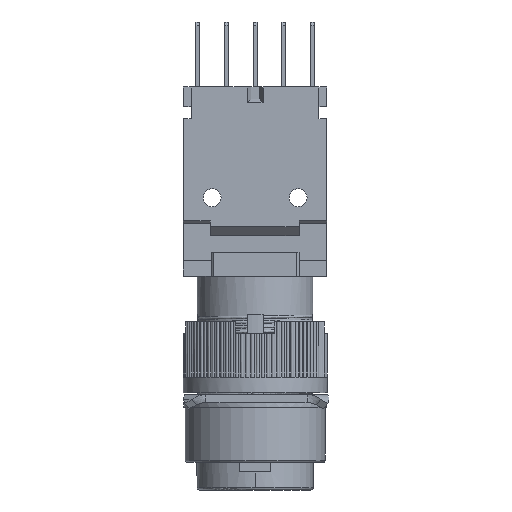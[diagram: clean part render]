
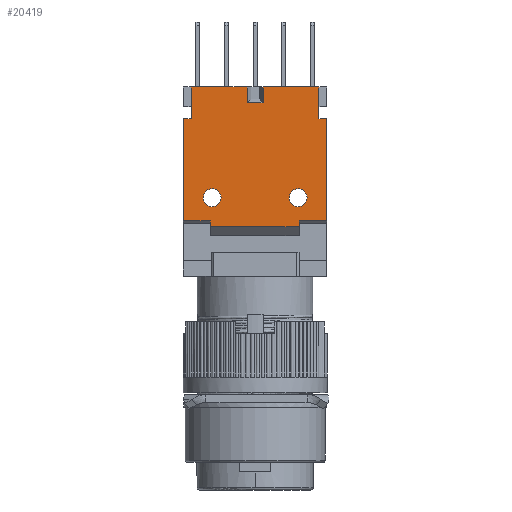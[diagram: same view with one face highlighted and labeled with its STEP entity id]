
A CAD part, front view. The second image highlights one B-rep face of the part: STEP entity #20419.
In plain terms, the highlighted planar face has unit normal (0, -1, 0).
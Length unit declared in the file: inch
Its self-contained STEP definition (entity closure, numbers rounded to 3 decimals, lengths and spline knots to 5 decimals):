
#240=DIRECTION('',(0.,0.,1.));
#241=VECTOR('',#240,4.);
#242=CARTESIAN_POINT('',(17.1,0.,-12.2));
#243=LINE('',#242,#241);
#324=DIRECTION('',(-1.,0.,0.));
#325=VECTOR('',#324,1.);
#326=CARTESIAN_POINT('',(18.1,0.,-12.2));
#327=LINE('',#326,#325);
#340=DIRECTION('',(1.,0.,0.));
#341=VECTOR('',#340,7.05);
#342=CARTESIAN_POINT('',(10.05,0.,-8.2));
#343=LINE('',#342,#341);
#344=DIRECTION('',(0.,0.,-1.));
#345=VECTOR('',#344,12.9);
#346=CARTESIAN_POINT('',(18.1,0.,-12.2));
#347=LINE('',#346,#345);
#348=DIRECTION('',(0.,0.,-1.));
#349=VECTOR('',#348,0.75);
#350=CARTESIAN_POINT('',(14.6,0.,-25.1));
#351=LINE('',#350,#349);
#352=DIRECTION('',(0.,0.,1.));
#353=VECTOR('',#352,12.9);
#354=CARTESIAN_POINT('',(0.,0.,-25.1));
#355=LINE('',#354,#353);
#356=DIRECTION('',(0.,0.,1.));
#357=VECTOR('',#356,4.);
#358=CARTESIAN_POINT('',(1.,0.,-12.2));
#359=LINE('',#358,#357);
#360=DIRECTION('',(1.,0.,0.));
#361=VECTOR('',#360,7.05);
#362=CARTESIAN_POINT('',(1.,0.,-8.2));
#363=LINE('',#362,#361);
#364=CARTESIAN_POINT('',(14.475,0.,-22.165));
#365=DIRECTION('',(0.,-1.,0.));
#366=DIRECTION('',(-1.,0.,0.));
#367=AXIS2_PLACEMENT_3D('',#364,#365,#366);
#369=CARTESIAN_POINT('',(14.475,0.,-22.165));
#370=DIRECTION('',(0.,-1.,0.));
#371=DIRECTION('',(1.,0.,0.));
#372=AXIS2_PLACEMENT_3D('',#369,#370,#371);
#374=CARTESIAN_POINT('',(3.625,0.,-22.165));
#375=DIRECTION('',(0.,-1.,0.));
#376=DIRECTION('',(-1.,0.,0.));
#377=AXIS2_PLACEMENT_3D('',#374,#375,#376);
#379=CARTESIAN_POINT('',(3.625,0.,-22.165));
#380=DIRECTION('',(0.,-1.,0.));
#381=DIRECTION('',(1.,0.,0.));
#382=AXIS2_PLACEMENT_3D('',#379,#380,#381);
#384=DIRECTION('',(0.,0.,-1.));
#385=VECTOR('',#384,2.);
#386=CARTESIAN_POINT('',(10.05,0.,-8.2));
#387=LINE('',#386,#385);
#388=DIRECTION('',(-1.,0.,0.));
#389=VECTOR('',#388,2.);
#390=CARTESIAN_POINT('',(10.05,0.,-10.2));
#391=LINE('',#390,#389);
#400=DIRECTION('',(0.,0.,1.));
#401=VECTOR('',#400,2.);
#402=CARTESIAN_POINT('',(8.05,0.,-10.2));
#403=LINE('',#402,#401);
#424=DIRECTION('',(1.,0.,0.));
#425=VECTOR('',#424,3.5);
#426=CARTESIAN_POINT('',(14.6,0.,-25.1));
#427=LINE('',#426,#425);
#15305=DIRECTION('',(1.,0.,0.));
#15306=VECTOR('',#15305,3.4);
#15307=CARTESIAN_POINT('',(0.,0.,-25.1));
#15308=LINE('',#15307,#15306);
#15317=DIRECTION('',(0.,0.,-1.));
#15318=VECTOR('',#15317,0.75);
#15319=CARTESIAN_POINT('',(3.4,0.,-25.1));
#15320=LINE('',#15319,#15318);
#15325=DIRECTION('',(1.,0.,0.));
#15326=VECTOR('',#15325,11.2);
#15327=CARTESIAN_POINT('',(3.4,0.,-25.85));
#15328=LINE('',#15327,#15326);
#15373=DIRECTION('',(-1.,0.,0.));
#15374=VECTOR('',#15373,1.);
#15375=CARTESIAN_POINT('',(1.,0.,-12.2));
#15376=LINE('',#15375,#15374);
#16989=CARTESIAN_POINT('',(18.1,0.,-25.1));
#16990=VERTEX_POINT('',#16989);
#16991=CARTESIAN_POINT('',(18.1,0.,-12.2));
#16992=VERTEX_POINT('',#16991);
#17031=CARTESIAN_POINT('',(17.1,0.,-8.2));
#17032=VERTEX_POINT('',#17031);
#17033=CARTESIAN_POINT('',(10.05,0.,-8.2));
#17034=VERTEX_POINT('',#17033);
#17039=CARTESIAN_POINT('',(8.05,0.,-8.2));
#17040=VERTEX_POINT('',#17039);
#17041=CARTESIAN_POINT('',(1.,0.,-8.2));
#17042=VERTEX_POINT('',#17041);
#17703=CARTESIAN_POINT('',(14.6,0.,-25.1));
#17704=CARTESIAN_POINT('',(14.6,0.,-25.85));
#17705=VERTEX_POINT('',#17703);
#17706=VERTEX_POINT('',#17704);
#17811=CARTESIAN_POINT('',(0.,0.,-12.2));
#17812=VERTEX_POINT('',#17811);
#17813=CARTESIAN_POINT('',(0.,0.,-25.1));
#17815=VERTEX_POINT('',#17813);
#17840=CARTESIAN_POINT('',(1.,0.,-12.2));
#17842=VERTEX_POINT('',#17840);
#17861=CARTESIAN_POINT('',(13.35,0.,-22.165));
#17862=CARTESIAN_POINT('',(15.6,0.,-22.165));
#17863=VERTEX_POINT('',#17861);
#17864=VERTEX_POINT('',#17862);
#17865=CARTESIAN_POINT('',(2.5,0.,-22.165));
#17866=CARTESIAN_POINT('',(4.75,0.,-22.165));
#17867=VERTEX_POINT('',#17865);
#17868=VERTEX_POINT('',#17866);
#17869=CARTESIAN_POINT('',(10.05,0.,-10.2));
#17870=VERTEX_POINT('',#17869);
#17871=CARTESIAN_POINT('',(17.1,0.,-12.2));
#17872=VERTEX_POINT('',#17871);
#17873=CARTESIAN_POINT('',(3.4,0.,-25.85));
#17874=VERTEX_POINT('',#17873);
#17875=CARTESIAN_POINT('',(3.4,0.,-25.1));
#17876=VERTEX_POINT('',#17875);
#17877=CARTESIAN_POINT('',(8.05,0.,-10.2));
#17878=VERTEX_POINT('',#17877);
#20374=CARTESIAN_POINT('',(9.05,0.,-17.025));
#20375=DIRECTION('',(0.,1.,0.));
#20376=DIRECTION('',(1.,0.,0.));
#20377=AXIS2_PLACEMENT_3D('',#20374,#20375,#20376);
#20378=PLANE('',#20377);
#20380=ORIENTED_EDGE('',*,*,#20379,.F.);
#20381=ORIENTED_EDGE('',*,*,#20066,.T.);
#20382=ORIENTED_EDGE('',*,*,#20231,.F.);
#20383=ORIENTED_EDGE('',*,*,#20366,.F.);
#20384=ORIENTED_EDGE('',*,*,#19770,.T.);
#20386=ORIENTED_EDGE('',*,*,#20385,.F.);
#20388=ORIENTED_EDGE('',*,*,#20387,.T.);
#20390=ORIENTED_EDGE('',*,*,#20389,.F.);
#20392=ORIENTED_EDGE('',*,*,#20391,.F.);
#20394=ORIENTED_EDGE('',*,*,#20393,.F.);
#20395=ORIENTED_EDGE('',*,*,#19903,.T.);
#20397=ORIENTED_EDGE('',*,*,#20396,.F.);
#20399=ORIENTED_EDGE('',*,*,#20398,.T.);
#20400=ORIENTED_EDGE('',*,*,#20074,.T.);
#20402=ORIENTED_EDGE('',*,*,#20401,.F.);
#20404=ORIENTED_EDGE('',*,*,#20403,.F.);
#20405=EDGE_LOOP('',(#20380,#20381,#20382,#20383,#20384,#20386,#20388,#20390,
#20392,#20394,#20395,#20397,#20399,#20400,#20402,#20404));
#20406=FACE_OUTER_BOUND('',#20405,.F.);
#20408=ORIENTED_EDGE('',*,*,#20407,.T.);
#20410=ORIENTED_EDGE('',*,*,#20409,.T.);
#20411=EDGE_LOOP('',(#20408,#20410));
#20412=FACE_BOUND('',#20411,.F.);
#20414=ORIENTED_EDGE('',*,*,#20413,.T.);
#20416=ORIENTED_EDGE('',*,*,#20415,.T.);
#20417=EDGE_LOOP('',(#20414,#20416));
#20418=FACE_BOUND('',#20417,.F.);
#20419=ADVANCED_FACE('',(#20406,#20412,#20418),#20378,.F.);
#368=CIRCLE('',#367,1.125);
#373=CIRCLE('',#372,1.125);
#378=CIRCLE('',#377,1.125);
#383=CIRCLE('',#382,1.125);
#19770=EDGE_CURVE('',#16992,#16990,#347,.T.);
#19903=EDGE_CURVE('',#17815,#17812,#355,.T.);
#20066=EDGE_CURVE('',#17034,#17032,#343,.T.);
#20074=EDGE_CURVE('',#17042,#17040,#363,.T.);
#20231=EDGE_CURVE('',#17872,#17032,#243,.T.);
#20366=EDGE_CURVE('',#16992,#17872,#327,.T.);
#20379=EDGE_CURVE('',#17034,#17870,#387,.T.);
#20385=EDGE_CURVE('',#17705,#16990,#427,.T.);
#20387=EDGE_CURVE('',#17705,#17706,#351,.T.);
#20389=EDGE_CURVE('',#17874,#17706,#15328,.T.);
#20391=EDGE_CURVE('',#17876,#17874,#15320,.T.);
#20393=EDGE_CURVE('',#17815,#17876,#15308,.T.);
#20396=EDGE_CURVE('',#17842,#17812,#15376,.T.);
#20398=EDGE_CURVE('',#17842,#17042,#359,.T.);
#20401=EDGE_CURVE('',#17878,#17040,#403,.T.);
#20403=EDGE_CURVE('',#17870,#17878,#391,.T.);
#20407=EDGE_CURVE('',#17863,#17864,#368,.T.);
#20409=EDGE_CURVE('',#17864,#17863,#373,.T.);
#20413=EDGE_CURVE('',#17867,#17868,#378,.T.);
#20415=EDGE_CURVE('',#17868,#17867,#383,.T.);
